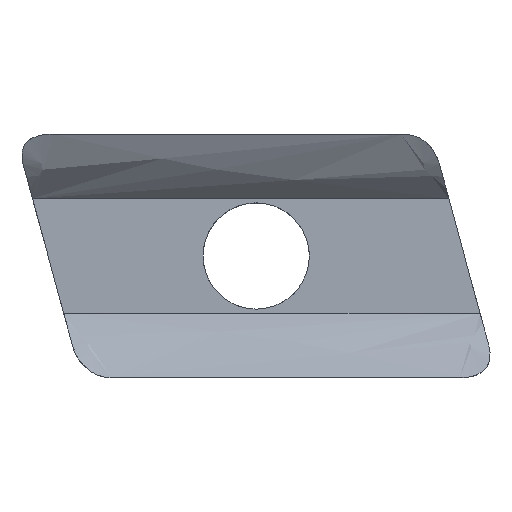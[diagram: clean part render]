
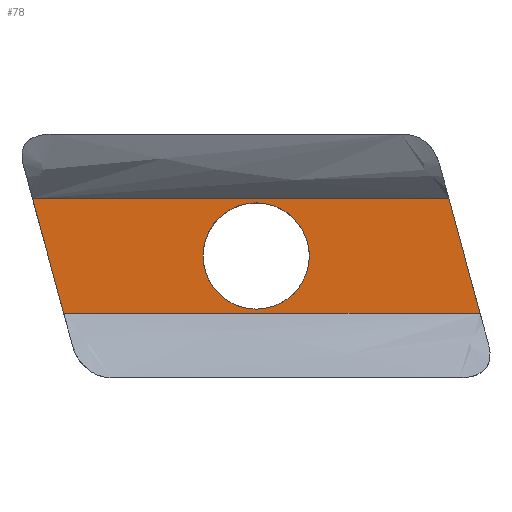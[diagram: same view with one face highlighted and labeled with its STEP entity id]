
A CAD part, top view. The second image highlights one B-rep face of the part: STEP entity #78.
In plain terms, the highlighted planar face has unit normal (0, 0, 1).
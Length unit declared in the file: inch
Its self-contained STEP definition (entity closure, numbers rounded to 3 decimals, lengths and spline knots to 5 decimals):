
#78=ADVANCED_FACE('',(#162,#163),#164,.T.);
#162=FACE_BOUND('',#1736,.T.);
#163=FACE_OUTER_BOUND('',#1737,.T.);
#164=PLANE('',#1738);
#1736=EDGE_LOOP('',(#1945,#1946,#1947,#1948));
#1737=EDGE_LOOP('',(#1949,#1950,#1951,#1952,#1953));
#1738=AXIS2_PLACEMENT_3D('',#1954,#1955,#1956);
#1945=ORIENTED_EDGE('',*,*,#2059,.T.);
#1946=ORIENTED_EDGE('',*,*,#2124,.T.);
#1947=ORIENTED_EDGE('',*,*,#2119,.T.);
#1948=ORIENTED_EDGE('',*,*,#2125,.T.);
#1949=ORIENTED_EDGE('',*,*,#2126,.F.);
#1950=ORIENTED_EDGE('',*,*,#2104,.T.);
#1951=ORIENTED_EDGE('',*,*,#2127,.F.);
#1952=ORIENTED_EDGE('',*,*,#2083,.T.);
#1953=ORIENTED_EDGE('',*,*,#2091,.T.);
#1954=CARTESIAN_POINT('',(-0.14909,0.203,0.0666));
#1955=DIRECTION('',(0.0,0.0,1.0));
#1956=DIRECTION('',(0.0,-1.0,0.0));
#2059=EDGE_CURVE('',#2167,#2168,#2169,.T.);
#2083=EDGE_CURVE('',#2202,#2209,#2211,.T.);
#2091=EDGE_CURVE('',#2209,#2222,#2224,.T.);
#2104=EDGE_CURVE('',#2239,#2243,#2245,.T.);
#2119=EDGE_CURVE('',#2267,#2268,#2269,.T.);
#2124=EDGE_CURVE('',#2168,#2267,#2274,.T.);
#2125=EDGE_CURVE('',#2268,#2167,#2275,.T.);
#2126=EDGE_CURVE('',#2239,#2222,#2276,.T.);
#2127=EDGE_CURVE('',#2202,#2243,#2277,.T.);
#2167=VERTEX_POINT('',#2573);
#2168=VERTEX_POINT('',#2574);
#2169=B_SPLINE_CURVE_WITH_KNOTS('',3,(#2575,#2576,#2577,#2578),.UNSPECIFIED.,.F.,.F.,(4,4),(-1.0,-0.0),.UNSPECIFIED.);
#2202=VERTEX_POINT('',#2716);
#2209=VERTEX_POINT('',#2737);
#2211=LINE('',#2744,#2745);
#2222=VERTEX_POINT('',#2765);
#2224=LINE('',#2772,#2773);
#2239=VERTEX_POINT('',#2851);
#2243=VERTEX_POINT('',#2857);
#2245=LINE('',#2864,#2865);
#2267=VERTEX_POINT('',#2956);
#2268=VERTEX_POINT('',#2957);
#2269=B_SPLINE_CURVE_WITH_KNOTS('',3,(#2958,#2959,#2960,#2961),.UNSPECIFIED.,.F.,.F.,(4,4),(-1.0,-0.0),.UNSPECIFIED.);
#2274=B_SPLINE_CURVE_WITH_KNOTS('',3,(#2968,#2969,#2970,#2971),.UNSPECIFIED.,.F.,.F.,(4,4),(-1.0,-0.0),.UNSPECIFIED.);
#2275=B_SPLINE_CURVE_WITH_KNOTS('',3,(#2972,#2973,#2974,#2975),.UNSPECIFIED.,.F.,.F.,(4,4),(-1.0,-0.0),.UNSPECIFIED.);
#2276=LINE('',#2976,#2977);
#2277=LINE('',#2978,#2979);
#2573=CARTESIAN_POINT('',(0.32976,0.20299,0.0666));
#2574=CARTESIAN_POINT('',(0.24126,0.1145,0.0666));
#2575=CARTESIAN_POINT('',(0.32976,0.20299,0.0666));
#2576=CARTESIAN_POINT('',(0.32976,0.15411,0.0666));
#2577=CARTESIAN_POINT('',(0.29013,0.1145,0.0666));
#2578=CARTESIAN_POINT('',(0.24126,0.1145,0.0666));
#2716=CARTESIAN_POINT('',(-0.13162,0.29872,0.0666));
#2737=CARTESIAN_POINT('',(-0.07948,0.10727,0.0666));
#2744=CARTESIAN_POINT('',(-0.10705,0.20851,0.0666));
#2745=VECTOR('',#3044,1.);
#2765=CARTESIAN_POINT('',(0.61456,0.10727,0.0666));
#2772=CARTESIAN_POINT('',(-0.14909,0.10727,0.0666));
#2773=VECTOR('',#3047,1.);
#2851=CARTESIAN_POINT('',(0.58847,0.203,0.0666));
#2857=CARTESIAN_POINT('',(0.56238,0.29872,0.0666));
#2864=CARTESIAN_POINT('',(0.5613,0.30268,0.0666));
#2865=VECTOR('',#3051,1.);
#2956=CARTESIAN_POINT('',(0.15276,0.20299,0.0666));
#2957=CARTESIAN_POINT('',(0.24126,0.2915,0.0666));
#2958=CARTESIAN_POINT('',(0.15276,0.20299,0.0666));
#2959=CARTESIAN_POINT('',(0.15276,0.25187,0.0666));
#2960=CARTESIAN_POINT('',(0.19238,0.2915,0.0666));
#2961=CARTESIAN_POINT('',(0.24126,0.2915,0.0666));
#2968=CARTESIAN_POINT('',(0.24126,0.1145,0.0666));
#2969=CARTESIAN_POINT('',(0.19238,0.1145,0.0666));
#2970=CARTESIAN_POINT('',(0.15276,0.15411,0.0666));
#2971=CARTESIAN_POINT('',(0.15276,0.20299,0.0666));
#2972=CARTESIAN_POINT('',(0.24126,0.2915,0.0666));
#2973=CARTESIAN_POINT('',(0.29013,0.2915,0.0666));
#2974=CARTESIAN_POINT('',(0.32976,0.25187,0.0666));
#2975=CARTESIAN_POINT('',(0.32976,0.20299,0.0666));
#2976=CARTESIAN_POINT('',(0.56298,0.29655,0.0666));
#2977=VECTOR('',#3057,1.0);
#2978=CARTESIAN_POINT('',(-0.14909,0.29872,0.0666));
#2979=VECTOR('',#3058,1.);
#3044=DIRECTION('',(0.263,-0.965,0.0));
#3047=DIRECTION('',(1.0,0.,0.0));
#3051=DIRECTION('',(-0.263,0.965,0.0));
#3057=DIRECTION('',(0.263,-0.965,0.0));
#3058=DIRECTION('',(1.0,0.,0.0));
